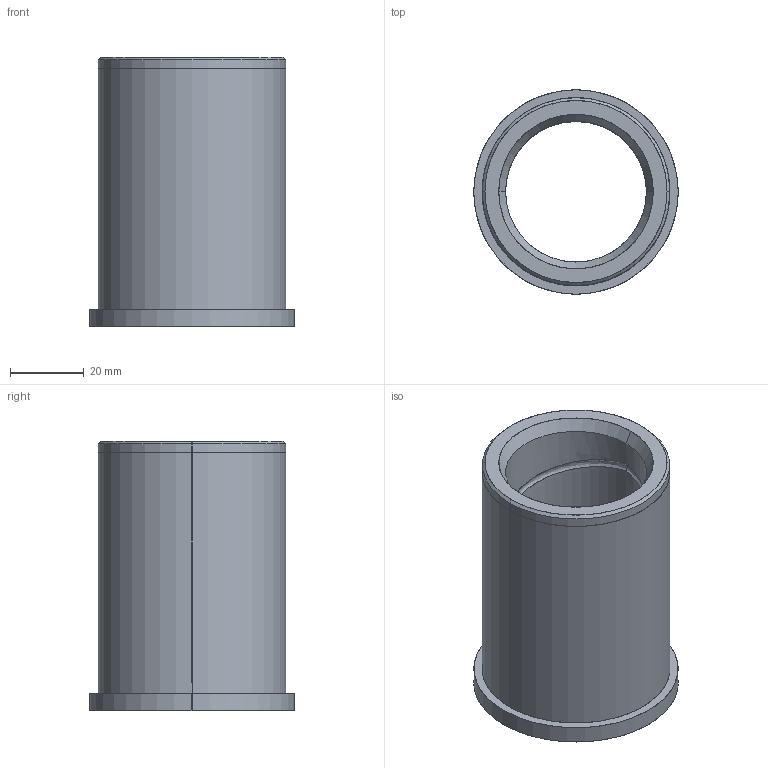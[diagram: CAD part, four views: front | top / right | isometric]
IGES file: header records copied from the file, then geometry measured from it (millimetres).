
Start section: SolidWorks IGES file using analytic representation for surfaces
Global section: file name: D:\Current\W2\SBF 12-27.igs; native system: SolidWorks 2017; preprocessor: SolidWorks 2017; author: Ravi Kalvai; date: 230530.114840; units: inch
Bounding box: 55.3 x 55.3 x 73.03 mm (x, y, z)
Surface area: 22818.4 mm2 (no closed solid volume)
Topology: 0 solids, 0 shells, 32 faces, 1298 edges, 1298 vertices
Faces by surface type: revolution 20, bspline 12
